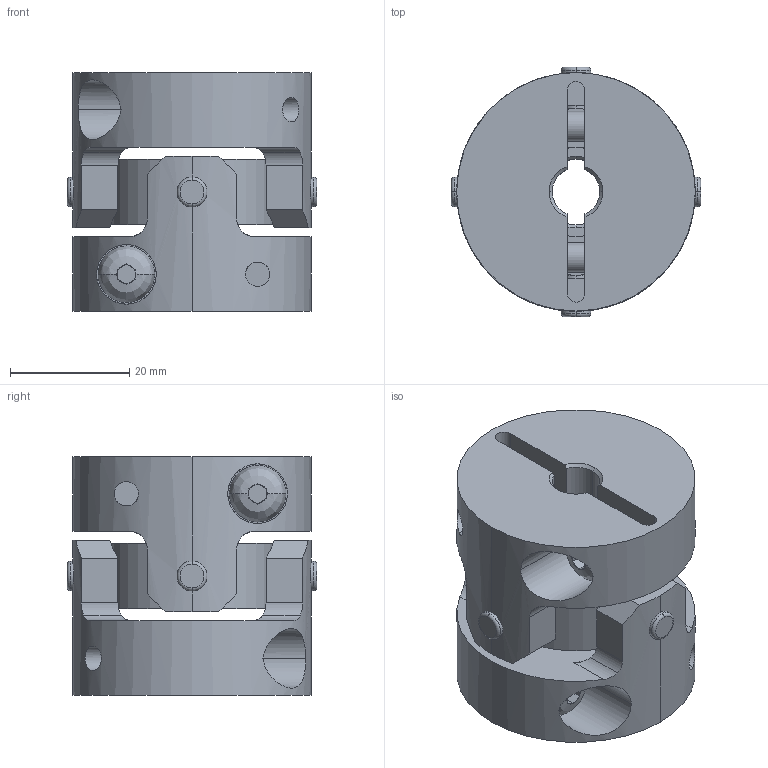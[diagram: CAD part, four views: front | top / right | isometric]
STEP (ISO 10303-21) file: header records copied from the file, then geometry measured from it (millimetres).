
FILE_DESCRIPTION((''),'2;1');
FILE_NAME('UA-40C-8×11.stp','2013-05-22T09:24:32',(''),(''),'AutoCAD STEP 2000i','AutoCAD 2000i',', , ');
FILE_SCHEMA(('CONFIG_CONTROL_DESIGN'));
Length unit declared in the file: millimetre
Products named in the file (6): UA-40C-8×8; 忣兜1; UA-4002-D08-1; BTN-M5; UA-4002-D08; UA40-SEN
Assembly tree (6 placements, depth 3):
  UA-40C-8×8
    忣兜1
    UA-4002-D08-1
      BTN-M5
    UA-4002-D08
      BTN-M5
    UA40-SEN
Bounding box: 41.81 x 41.81 x 40 mm (x, y, z)
Volume: 34771.2 mm3; surface area: 15659.6 mm2
Topology: 1 solids, 1 shells, 250 faces, 646 edges, 408 vertices
Faces by surface type: plane 122, cylinder 96, cone 16, bspline 8, torus 8
Entity records: 9627 total; most frequent: CARTESIAN_POINT 3371, ORIENTED_EDGE 1292, DIRECTION 1288, EDGE_CURVE 646, AXIS2_PLACEMENT_3D 497, VERTEX_POINT 408, VECTOR 294, LINE 294
